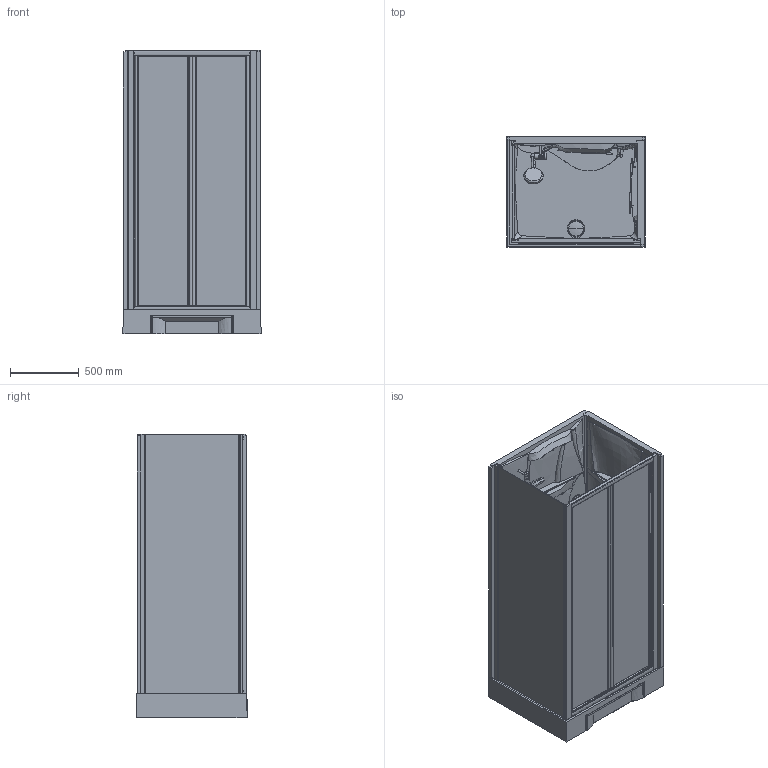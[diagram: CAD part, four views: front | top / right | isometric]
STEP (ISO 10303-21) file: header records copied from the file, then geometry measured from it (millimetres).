
FILE_DESCRIPTION(('STEP AP203'),'2;1');
FILE_NAME('NNH S 100 T 19.stp','2015-09-04T14:39:27',(''),(''),'2014.1.117','THINKDESIGN','');
FILE_SCHEMA(('CONFIG_CONTROL_DESIGN'));
Length unit declared in the file: millimetre
Products named in the file (1): top
Bounding box: 1004.04 x 807.53 x 2063.06 mm (x, y, z)
Volume: 223894686.2 mm3; surface area: 18402723.4 mm2
Topology: 35 solids, 35 shells, 678 faces, 1735 edges, 1139 vertices
Faces by surface type: bspline 341, plane 252, cylinder 85
Entity records: 64643 total; most frequent: CARTESIAN_POINT 50865, ORIENTED_EDGE 3282, DIRECTION 1880, EDGE_CURVE 1641, VERTEX_POINT 1066, VECTOR 730, LINE 730, EDGE_LOOP 687
